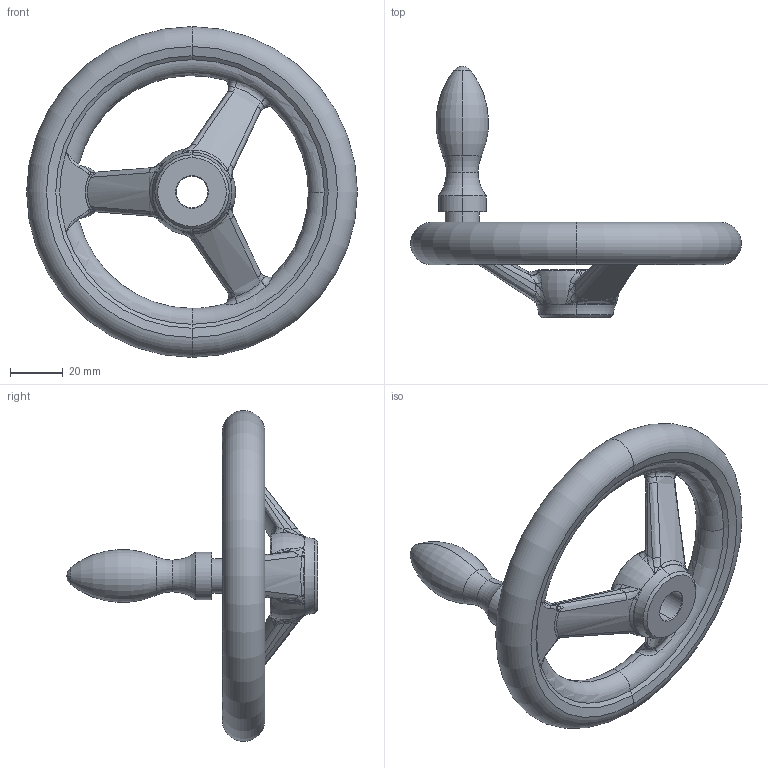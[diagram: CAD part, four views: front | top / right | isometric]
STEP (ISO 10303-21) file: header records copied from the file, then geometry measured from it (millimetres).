
FILE_DESCRIPTION (( 'STEP AP203' ), '1' );
FILE_NAME ('din950_d4_125x12.step', '2015-02-02T09:40:00', ( 'Magnus' ), ( 'Microsoft' ), 'SwSTEP 2.0', 'SolidWorks 2014', '' );
FILE_SCHEMA (( 'CONFIG_CONTROL_DESIGN' ));
Length unit declared in the file: millimetre
Products named in the file (1): din950_d4_125x12
Bounding box: 125 x 95 x 125 mm (x, y, z)
Volume: 109933.1 mm3; surface area: 28190.6 mm2
Topology: 1 solids, 1 shells, 210 faces, 508 edges, 277 vertices
Faces by surface type: bspline 138, torus 34, cone 16, plane 11, cylinder 9, sphere 2
Entity records: 10652 total; most frequent: CARTESIAN_POINT 6751, ORIENTED_EDGE 980, DIRECTION 574, EDGE_CURVE 490, VERTEX_POINT 277, AXIS2_PLACEMENT_3D 275, B_SPLINE_CURVE_WITH_KNOTS 260, EDGE_LOOP 213
